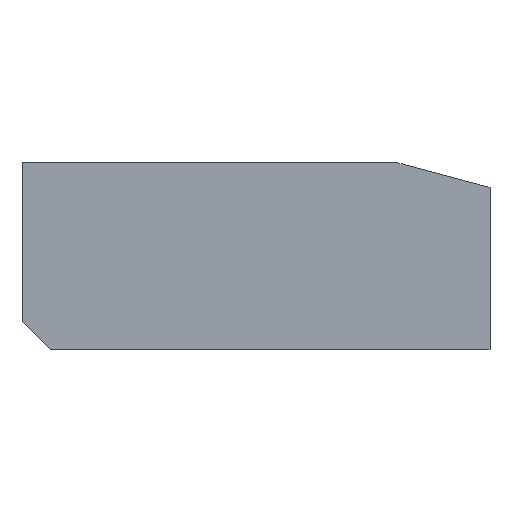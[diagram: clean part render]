
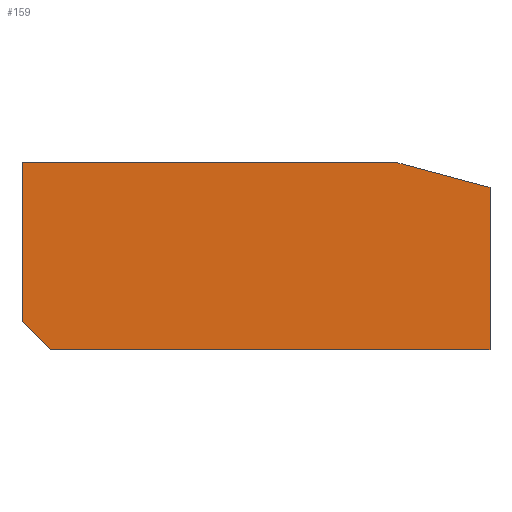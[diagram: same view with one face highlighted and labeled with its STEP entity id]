
A CAD part, front view. The second image highlights one B-rep face of the part: STEP entity #159.
In plain terms, the highlighted planar face has unit normal (0, -1, 0).
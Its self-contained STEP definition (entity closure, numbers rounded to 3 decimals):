
#6 = EDGE_CURVE ( 'NONE', #436, #332, #245, .T. ) ;
#9 = CARTESIAN_POINT ( 'NONE',  ( -10.658, 0., 15. ) ) ;
#27 = ORIENTED_EDGE ( 'NONE', *, *, #366, .F. ) ;
#47 = LINE ( 'NONE', #508, #286 ) ;
#49 = DIRECTION ( 'NONE',  ( 0., 1., 0. ) ) ;
#60 = ORIENTED_EDGE ( 'NONE', *, *, #6, .F. ) ;
#72 = AXIS2_PLACEMENT_3D ( 'NONE', #114, #396, #465 ) ;
#76 = VERTEX_POINT ( 'NONE', #244 ) ;
#79 = LINE ( 'NONE', #82, #302 ) ;
#82 = CARTESIAN_POINT ( 'NONE',  ( -5., 0., 18.66 ) ) ;
#91 = DIRECTION ( 'NONE',  ( -1., 0., 0. ) ) ;
#93 = LINE ( 'NONE', #461, #482 ) ;
#99 = CARTESIAN_POINT ( 'NONE',  ( -47., 0., 0. ) ) ;
#114 = CARTESIAN_POINT ( 'NONE',  ( 0., 0., 20. ) ) ;
#123 = EDGE_CURVE ( 'NONE', #433, #604, #79, .T. ) ;
#127 = VERTEX_POINT ( 'NONE', #501 ) ;
#129 = DIRECTION ( 'NONE',  ( -0.707, 0., 0.707 ) ) ;
#142 = DIRECTION ( 'NONE',  ( 1., 0., 0. ) ) ;
#159 = ADVANCED_FACE ( 'NONE', ( #407 ), #251, .F. ) ;
#169 = DIRECTION ( 'NONE',  ( 0.966, 0., -0.259 ) ) ;
#171 = ORIENTED_EDGE ( 'NONE', *, *, #123, .F. ) ;
#185 = CARTESIAN_POINT ( 'NONE',  ( 0., 0., 17.321 ) ) ;
#189 = VECTOR ( 'NONE', #226, 1000. ) ;
#211 = VECTOR ( 'NONE', #262, 1000. ) ;
#226 = DIRECTION ( 'NONE',  ( 0., 0., -1. ) ) ;
#230 = EDGE_CURVE ( 'NONE', #332, #76, #93, .T. ) ;
#231 = CARTESIAN_POINT ( 'NONE',  ( 0., 0., 8.66 ) ) ;
#244 = CARTESIAN_POINT ( 'NONE',  ( -50., 0., 3. ) ) ;
#245 = LINE ( 'NONE', #467, #415 ) ;
#251 = PLANE ( 'NONE',  #72 ) ;
#257 = CARTESIAN_POINT ( 'NONE',  ( -50., 0., 11.5 ) ) ;
#262 = DIRECTION ( 'NONE',  ( 0., 0., -1. ) ) ;
#269 = CARTESIAN_POINT ( 'NONE',  ( -10.658, 0., 20. ) ) ;
#277 = EDGE_CURVE ( 'NONE', #301, #127, #47, .T. ) ;
#286 = VECTOR ( 'NONE', #377, 1000. ) ;
#293 = EDGE_CURVE ( 'NONE', #301, #433, #543, .T. ) ;
#294 = ORIENTED_EDGE ( 'NONE', *, *, #422, .T. ) ;
#301 = VERTEX_POINT ( 'NONE', #269 ) ;
#302 = VECTOR ( 'NONE', #169, 1000. ) ;
#304 = CARTESIAN_POINT ( 'NONE',  ( -9.364, 0., 19.83 ) ) ;
#313 = LINE ( 'NONE', #231, #211 ) ;
#332 = VERTEX_POINT ( 'NONE', #99 ) ;
#354 = CARTESIAN_POINT ( 'NONE',  ( 0., 0., 0. ) ) ;
#366 = EDGE_CURVE ( 'NONE', #604, #436, #313, .T. ) ;
#377 = DIRECTION ( 'NONE',  ( -1., 0., 0. ) ) ;
#396 = DIRECTION ( 'NONE',  ( 0., 1., 0. ) ) ;
#407 = FACE_OUTER_BOUND ( 'NONE', #468, .T. ) ;
#411 = ORIENTED_EDGE ( 'NONE', *, *, #277, .T. ) ;
#415 = VECTOR ( 'NONE', #91, 1000. ) ;
#422 = EDGE_CURVE ( 'NONE', #127, #76, #519, .T. ) ;
#433 = VERTEX_POINT ( 'NONE', #304 ) ;
#436 = VERTEX_POINT ( 'NONE', #354 ) ;
#451 = ORIENTED_EDGE ( 'NONE', *, *, #293, .F. ) ;
#461 = CARTESIAN_POINT ( 'NONE',  ( -48.5, 0., 1.5 ) ) ;
#465 = DIRECTION ( 'NONE',  ( 1., 0., 0. ) ) ;
#467 = CARTESIAN_POINT ( 'NONE',  ( -23.5, 0., 0. ) ) ;
#468 = EDGE_LOOP ( 'NONE', ( #548, #60, #27, #171, #451, #411, #294 ) ) ;
#482 = VECTOR ( 'NONE', #129, 1000. ) ;
#501 = CARTESIAN_POINT ( 'NONE',  ( -50., 0., 20. ) ) ;
#508 = CARTESIAN_POINT ( 'NONE',  ( -30.329, 0., 20. ) ) ;
#514 = AXIS2_PLACEMENT_3D ( 'NONE', #9, #49, #142 ) ;
#519 = LINE ( 'NONE', #257, #189 ) ;
#543 = CIRCLE ( 'NONE', #514, 5. ) ;
#548 = ORIENTED_EDGE ( 'NONE', *, *, #230, .F. ) ;
#604 = VERTEX_POINT ( 'NONE', #185 ) ;
